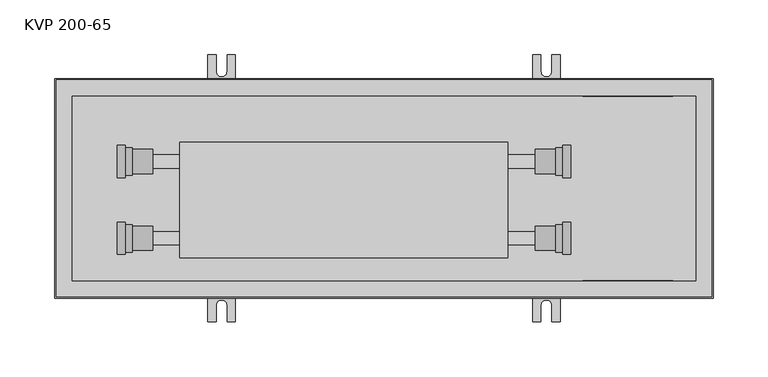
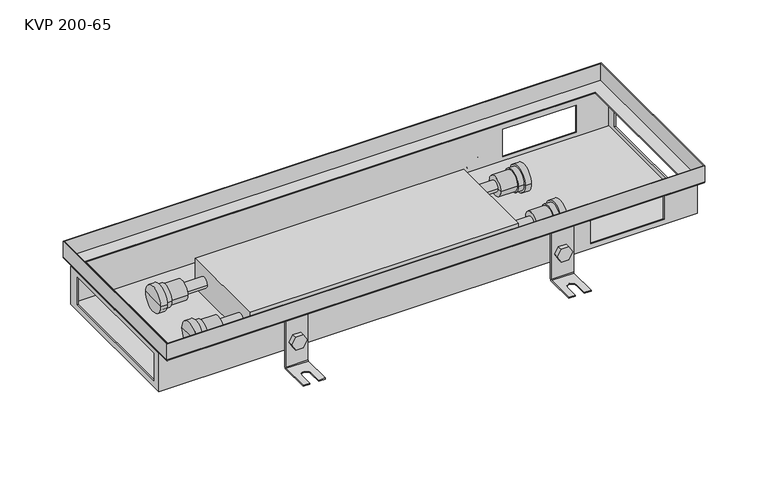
"""IFC4 building model written with IfcOpenShell, lengths in millimetres: proxy geometry, TECHNO_Конвектор встраиваемый_Usual_KVP-200_65 : KVP 200-65."""

from ifc_helpers import new_model, si_unit, point, frame, frame_2d, origin, place, context, project, spatial, polyline, circle_curve, ellipse_curve, trimmed, segment, composite_curve, outline, extrude, faceted_brep, source, transform, mapped, element, save
from ifc_brep_helpers import plane_surface, cylinder_surface, revolved_surface, advanced_brep


def kvp_200_65_299f4ea4(model_context):
    return source(origin(), model_context, "Body", "SolidModel", [
        extrude(outline(composite_curve([segment(trimmed(circle_curve(frame_2d((-55.5, 448.0)), 7.5), [point((-55.5, 440.5))], [point((-55.5, 455.5))], False, "CARTESIAN"), True, "CONTINUOUS"), segment(trimmed(circle_curve(frame_2d((-55.5, 448.0)), 7.5), [point((-55.5, 455.5))], [point((-55.5, 440.5))], False, "CARTESIAN"), True, "CONTINUOUS")], self_intersect=False)), frame((0.0, 85.2, 0.0), z_axis=(0.0, 1.0, 0.0), x_axis=(0.0, 0.0, 1.0)), (0.0, 0.0, 1.0), 1.5),
        extrude(outline(polyline([(-55.5, 439.339746), (-63.0, 443.669873), (-63.0, 452.330127), (-55.5, 456.660254), (-48.0, 452.330127), (-48.0, 443.669873), (-55.5, 439.339746)])), frame((0.0, 87.9, 0.0), z_axis=(0.0, 1.0, 0.0), x_axis=(0.0, 0.0, 1.0)), (0.0, 0.0, 1.0), 5.1),
        advanced_brep(
        [(460.5, 87.9, -20.5), (460.5, 86.7, -20.5), (460.5, 86.7, -83.5), (460.5, 88.7, -85.5), (460.5, 121.7, -85.5), (460.5, 121.7, -84.3), (460.5, 88.7, -84.3), (460.5, 87.9, -83.5), (435.5, 87.9, -20.5), (435.5, 87.9, -83.5), (435.5, 88.7, -84.3), (435.5, 121.7, -84.3), (435.5, 121.7, -85.5), (435.5, 88.7, -85.5), (435.5, 86.7, -83.5), (435.5, 86.7, -20.5), (453.0, 121.7, -84.3), (453.0, 106.7, -84.3), (443.0, 106.7, -84.3), (443.0, 121.7, -84.3), (443.0, 121.7, -85.5), (453.0, 121.7, -85.5), (443.0, 106.7, -85.5), (453.0, 106.7, -85.5)],
        [
            (0, 1),
            (1, 2),
            (2, 3, circle_curve(frame((460.5, 88.7, -83.5), z_axis=(1.0, 0.0, 0.0), x_axis=(0.0, 1.0, 0.0)), 2.0)),
            (3, 4),
            (4, 5),
            (5, 6),
            (6, 7, circle_curve(frame((460.5, 88.7, -83.5), z_axis=(-1.0, 0.0, 0.0), x_axis=(0.0, 1.0, 0.0)), 0.8)),
            (7, 0),
            (8, 9),
            (9, 10, circle_curve(frame((435.5, 88.7, -83.5), z_axis=(1.0, 0.0, 0.0), x_axis=(0.0, 1.0, 0.0)), 0.8)),
            (10, 11),
            (11, 12),
            (12, 13),
            (13, 14, circle_curve(frame((435.5, 88.7, -83.5), z_axis=(-1.0, 0.0, 0.0), x_axis=(0.0, 1.0, 0.0)), 2.0)),
            (14, 15),
            (15, 8),
            (7, 9),
            (8, 0),
            (6, 10),
            (5, 16),
            (16, 17),
            (17, 18, circle_curve(frame((448.0, 106.7, -84.3), z_axis=(0.0, 0.0, -1.0), x_axis=(1.0, 0.0, 0.0)), 5.0)),
            (18, 19),
            (19, 11),
            (19, 20),
            (20, 12),
            (4, 21),
            (21, 16),
            (3, 13),
            (20, 22),
            (22, 23, circle_curve(frame((448.0, 106.7, -85.5), z_axis=(0.0, 0.0, 1.0), x_axis=(1.0, 0.0, 0.0)), 5.0)),
            (23, 21),
            (2, 14),
            (1, 15),
            (18, 22),
            (23, 17),
        ],
        [
            plane_surface(frame((460.5, 87.9, -20.5), z_axis=(1.0, 0.0, 0.0), x_axis=(0.0, 0.0, -1.0))),
            plane_surface(frame((435.5, 87.9, -20.5), z_axis=(-1.0, 0.0, 0.0), x_axis=(0.0, 0.0, 1.0))),
            plane_surface(frame((460.5, 87.9, -20.5), z_axis=(0.0, 1.0, 0.0), x_axis=(-1.0, 0.0, 0.0))),
            revolved_surface(polyline([(435.5, 89.5, -83.5), (460.5, 89.5, -83.5)]), (435.5, 88.7, -83.5), (-1.0, 0.0, 0.0)),
            plane_surface(frame((460.5, 88.7, -84.3), z_axis=(0.0, 0.0, 1.0), x_axis=(-1.0, 0.0, 0.0))),
            plane_surface(frame((460.5, 121.7, -84.3), z_axis=(0.0, 1.0, 0.0), x_axis=(-1.0, 0.0, 0.0))),
            plane_surface(frame((460.5, 121.7, -85.5), z_axis=(0.0, 0.0, -1.0), x_axis=(-1.0, 0.0, 0.0))),
            cylinder_surface(frame((435.5, 88.7, -83.5), z_axis=(1.0, 0.0, 0.0), x_axis=(0.0, 1.0, 0.0)), 2.0),
            plane_surface(frame((460.5, 86.7, -83.5), z_axis=(0.0, -1.0, 0.0), x_axis=(-1.0, 0.0, 0.0))),
            plane_surface(frame((460.5, 86.7, -20.5), z_axis=(0.0, 0.0, 1.0), x_axis=(-1.0, 0.0, 0.0))),
            plane_surface(frame((443.0, 106.7, -84.3), z_axis=(1.0, 0.0, 0.0), x_axis=(0.0, 0.0, -1.0))),
            plane_surface(frame((453.0, 121.7, -84.3), z_axis=(-1.0, 0.0, 0.0), x_axis=(0.0, 0.0, -1.0))),
            revolved_surface(polyline([(453.0, 106.7, -84.3), (453.0, 106.7, -85.5)]), (448.0, 106.7, -85.5), (0.0, 0.0, 1.0)),
        ],
        [
            (0, [[1, 2, 3, 4, 5, 6, 7, 8]]),
            (1, [[9, 10, 11, 12, 13, 14, 15, 16]]),
            (2, [[17, -9, 18, -8]]),
            (3, [[19, -10, -17, -7]]),
            (4, [[20, 21, 22, 23, 24, -11, -19, -6]]),
            (5, [[-24, 25, 26, -12]]),
            (5, [[27, 28, -20, -5]]),
            (6, [[29, -13, -26, 30, 31, 32, -27, -4]]),
            (7, [[33, -14, -29, -3]]),
            (8, [[34, -15, -33, -2]]),
            (9, [[-18, -16, -34, -1]]),
            (10, [[-30, -25, -23, 35]]),
            (11, [[-21, -28, -32, 36]]),
            (12, [[-22, -36, -31, -35]]),
        ],
    ),
        extrude(outline(composite_curve([segment(trimmed(circle_curve(frame_2d((-55.5, 448.0)), 7.5), [point((-55.5, 440.5))], [point((-55.5, 455.5))], False, "CARTESIAN"), True, "CONTINUOUS"), segment(trimmed(circle_curve(frame_2d((-55.5, 448.0)), 7.5), [point((-55.5, 455.5))], [point((-55.5, 440.5))], False, "CARTESIAN"), True, "CONTINUOUS")], self_intersect=False)), frame((0.0, -86.7, 0.0), z_axis=(0.0, 1.0, 0.0), x_axis=(0.0, 0.0, 1.0)), (0.0, 0.0, 1.0), 1.5),
        extrude(outline(polyline([(-55.5, 439.339746), (-63.0, 443.669873), (-63.0, 452.330127), (-55.5, 456.660254), (-48.0, 452.330127), (-48.0, 443.669873), (-55.5, 439.339746)])), frame((0.0, -93.0, 0.0), z_axis=(0.0, 1.0, 0.0), x_axis=(0.0, 0.0, 1.0)), (0.0, 0.0, 1.0), 5.1),
        advanced_brep(
        [(460.5, -87.9, -20.5), (460.5, -87.9, -83.5), (460.5, -88.7, -84.3), (460.5, -121.7, -84.3), (460.5, -121.7, -85.5), (460.5, -88.7, -85.5), (460.5, -86.7, -83.5), (460.5, -86.7, -20.5), (435.5, -87.9, -20.5), (435.5, -86.7, -20.5), (435.5, -86.7, -83.5), (435.5, -88.7, -85.5), (435.5, -121.7, -85.5), (435.5, -121.7, -84.3), (435.5, -88.7, -84.3), (435.5, -87.9, -83.5), (443.0, -121.7, -84.3), (443.0, -106.7, -84.3), (453.0, -106.7, -84.3), (453.0, -121.7, -84.3), (453.0, -121.7, -85.5), (443.0, -121.7, -85.5), (453.0, -106.7, -85.5), (443.0, -106.7, -85.5)],
        [
            (0, 1),
            (1, 2, circle_curve(frame((460.5, -88.7, -83.5), z_axis=(-1.0, 0.0, 0.0), x_axis=(0.0, -1.0, 0.0)), 0.8)),
            (2, 3),
            (3, 4),
            (4, 5),
            (5, 6, circle_curve(frame((460.5, -88.7, -83.5), z_axis=(1.0, 0.0, 0.0), x_axis=(0.0, -1.0, 0.0)), 2.0)),
            (6, 7),
            (7, 0),
            (8, 9),
            (9, 10),
            (10, 11, circle_curve(frame((435.5, -88.7, -83.5), z_axis=(-1.0, 0.0, 0.0), x_axis=(0.0, -1.0, 0.0)), 2.0)),
            (11, 12),
            (12, 13),
            (13, 14),
            (14, 15, circle_curve(frame((435.5, -88.7, -83.5), z_axis=(1.0, 0.0, 0.0), x_axis=(0.0, -1.0, 0.0)), 0.8)),
            (15, 8),
            (0, 8),
            (15, 1),
            (14, 2),
            (13, 16),
            (16, 17),
            (17, 18, circle_curve(frame((448.0, -106.7, -84.3), z_axis=(0.0, 0.0, -1.0), x_axis=(1.0, 0.0, 0.0)), 5.0)),
            (18, 19),
            (19, 3),
            (19, 20),
            (20, 4),
            (12, 21),
            (21, 16),
            (20, 22),
            (22, 23, circle_curve(frame((448.0, -106.7, -85.5), z_axis=(0.0, 0.0, 1.0), x_axis=(1.0, 0.0, 0.0)), 5.0)),
            (23, 21),
            (11, 5),
            (10, 6),
            (9, 7),
            (23, 17),
            (18, 22),
        ],
        [
            plane_surface(frame((460.5, -87.9, -20.5), z_axis=(1.0, 0.0, 0.0), x_axis=(0.0, 0.0, -1.0))),
            plane_surface(frame((435.5, -87.9, -20.5), z_axis=(-1.0, 0.0, 0.0), x_axis=(0.0, 0.0, 1.0))),
            plane_surface(frame((460.5, -87.9, -20.5), z_axis=(0.0, -1.0, 0.0), x_axis=(-1.0, 0.0, 0.0))),
            revolved_surface(polyline([(435.5, -89.5, -83.5), (460.5, -89.5, -83.5)]), (435.5, -88.7, -83.5), (-1.0, 0.0, 0.0)),
            plane_surface(frame((460.5, -88.7, -84.3), z_axis=(0.0, 0.0, 1.0), x_axis=(-1.0, 0.0, 0.0))),
            plane_surface(frame((460.5, -121.7, -84.3), z_axis=(0.0, -1.0, 0.0), x_axis=(-1.0, 0.0, 0.0))),
            plane_surface(frame((460.5, -121.7, -85.5), z_axis=(0.0, 0.0, -1.0), x_axis=(-1.0, 0.0, 0.0))),
            cylinder_surface(frame((435.5, -88.7, -83.5), z_axis=(1.0, 0.0, 0.0), x_axis=(0.0, -1.0, 0.0)), 2.0),
            plane_surface(frame((460.5, -86.7, -83.5), z_axis=(0.0, 1.0, 0.0), x_axis=(-1.0, 0.0, 0.0))),
            plane_surface(frame((460.5, -86.7, -20.5), z_axis=(0.0, 0.0, 1.0), x_axis=(-1.0, 0.0, 0.0))),
            plane_surface(frame((443.0, -106.7, -84.3), z_axis=(1.0, 0.0, 0.0), x_axis=(0.0, 0.0, -1.0))),
            plane_surface(frame((453.0, -121.7, -84.3), z_axis=(-1.0, 0.0, 0.0), x_axis=(0.0, 0.0, -1.0))),
            revolved_surface(polyline([(453.0, -106.7, -84.3), (453.0, -106.7, -85.5)]), (448.0, -106.7, -85.5), (0.0, 0.0, 1.0)),
        ],
        [
            (0, [[1, 2, 3, 4, 5, 6, 7, 8]]),
            (1, [[9, 10, 11, 12, 13, 14, 15, 16]]),
            (2, [[-1, 17, -16, 18]]),
            (3, [[-2, -18, -15, 19]]),
            (4, [[-3, -19, -14, 20, 21, 22, 23, 24]]),
            (5, [[-4, -24, 25, 26]]),
            (5, [[-13, 27, 28, -20]]),
            (6, [[-5, -26, 29, 30, 31, -27, -12, 32]]),
            (7, [[-6, -32, -11, 33]]),
            (8, [[-7, -33, -10, 34]]),
            (9, [[-8, -34, -9, -17]]),
            (10, [[35, -21, -28, -31]]),
            (11, [[36, -29, -25, -23]]),
            (12, [[-35, -30, -36, -22]]),
        ],
    ),
        extrude(outline(composite_curve([segment(trimmed(circle_curve(frame_2d((-55.5, 152.0)), 7.5), [point((-55.5, 144.5))], [point((-55.5, 159.5))], False, "CARTESIAN"), True, "CONTINUOUS"), segment(trimmed(circle_curve(frame_2d((-55.5, 152.0)), 7.5), [point((-55.5, 159.5))], [point((-55.5, 144.5))], False, "CARTESIAN"), True, "CONTINUOUS")], self_intersect=False)), frame((0.0, 85.2, 0.0), z_axis=(0.0, 1.0, 0.0), x_axis=(0.0, 0.0, 1.0)), (0.0, 0.0, 1.0), 1.5),
        extrude(outline(polyline([(-55.5, 143.339746), (-63.0, 147.669873), (-63.0, 156.330127), (-55.5, 160.660254), (-48.0, 156.330127), (-48.0, 147.669873), (-55.5, 143.339746)])), frame((0.0, 87.9, 0.0), z_axis=(0.0, 1.0, 0.0), x_axis=(0.0, 0.0, 1.0)), (0.0, 0.0, 1.0), 5.1),
        advanced_brep(
        [(164.5, 87.9, -20.5), (164.5, 86.7, -20.5), (164.5, 86.7, -83.5), (164.5, 88.7, -85.5), (164.5, 121.7, -85.5), (164.5, 121.7, -84.3), (164.5, 88.7, -84.3), (164.5, 87.9, -83.5), (139.5, 87.9, -20.5), (139.5, 87.9, -83.5), (139.5, 88.7, -84.3), (139.5, 121.7, -84.3), (139.5, 121.7, -85.5), (139.5, 88.7, -85.5), (139.5, 86.7, -83.5), (139.5, 86.7, -20.5), (157.0, 121.7, -84.3), (157.0, 106.7, -84.3), (147.0, 106.7, -84.3), (147.0, 121.7, -84.3), (147.0, 121.7, -85.5), (157.0, 121.7, -85.5), (147.0, 106.7, -85.5), (157.0, 106.7, -85.5)],
        [
            (0, 1),
            (1, 2),
            (2, 3, circle_curve(frame((164.5, 88.7, -83.5), z_axis=(1.0, 0.0, 0.0), x_axis=(0.0, 1.0, 0.0)), 2.0)),
            (3, 4),
            (4, 5),
            (5, 6),
            (6, 7, circle_curve(frame((164.5, 88.7, -83.5), z_axis=(-1.0, 0.0, 0.0), x_axis=(0.0, 1.0, 0.0)), 0.8)),
            (7, 0),
            (8, 9),
            (9, 10, circle_curve(frame((139.5, 88.7, -83.5), z_axis=(1.0, 0.0, 0.0), x_axis=(0.0, 1.0, 0.0)), 0.8)),
            (10, 11),
            (11, 12),
            (12, 13),
            (13, 14, circle_curve(frame((139.5, 88.7, -83.5), z_axis=(-1.0, 0.0, 0.0), x_axis=(0.0, 1.0, 0.0)), 2.0)),
            (14, 15),
            (15, 8),
            (7, 9),
            (8, 0),
            (6, 10),
            (5, 16),
            (16, 17),
            (17, 18, circle_curve(frame((152.0, 106.7, -84.3), z_axis=(0.0, 0.0, -1.0), x_axis=(1.0, 0.0, 0.0)), 5.0)),
            (18, 19),
            (19, 11),
            (19, 20),
            (20, 12),
            (4, 21),
            (21, 16),
            (3, 13),
            (20, 22),
            (22, 23, circle_curve(frame((152.0, 106.7, -85.5), z_axis=(0.0, 0.0, 1.0), x_axis=(1.0, 0.0, 0.0)), 5.0)),
            (23, 21),
            (2, 14),
            (1, 15),
            (18, 22),
            (23, 17),
        ],
        [
            plane_surface(frame((164.5, 87.9, -20.5), z_axis=(1.0, 0.0, 0.0), x_axis=(0.0, 0.0, -1.0))),
            plane_surface(frame((139.5, 87.9, -20.5), z_axis=(-1.0, 0.0, 0.0), x_axis=(0.0, 0.0, 1.0))),
            plane_surface(frame((164.5, 87.9, -20.5), z_axis=(0.0, 1.0, 0.0), x_axis=(-1.0, 0.0, 0.0))),
            revolved_surface(polyline([(139.5, 89.5, -83.5), (164.5, 89.5, -83.5)]), (139.5, 88.7, -83.5), (-1.0, 0.0, 0.0)),
            plane_surface(frame((164.5, 88.7, -84.3), z_axis=(0.0, 0.0, 1.0), x_axis=(-1.0, 0.0, 0.0))),
            plane_surface(frame((164.5, 121.7, -84.3), z_axis=(0.0, 1.0, 0.0), x_axis=(-1.0, 0.0, 0.0))),
            plane_surface(frame((164.5, 121.7, -85.5), z_axis=(0.0, 0.0, -1.0), x_axis=(-1.0, 0.0, 0.0))),
            cylinder_surface(frame((139.5, 88.7, -83.5), z_axis=(1.0, 0.0, 0.0), x_axis=(0.0, 1.0, 0.0)), 2.0),
            plane_surface(frame((164.5, 86.7, -83.5), z_axis=(0.0, -1.0, 0.0), x_axis=(-1.0, 0.0, 0.0))),
            plane_surface(frame((164.5, 86.7, -20.5), z_axis=(0.0, 0.0, 1.0), x_axis=(-1.0, 0.0, 0.0))),
            plane_surface(frame((147.0, 106.7, -84.3), z_axis=(1.0, 0.0, 0.0), x_axis=(0.0, 0.0, -1.0))),
            plane_surface(frame((157.0, 121.7, -84.3), z_axis=(-1.0, 0.0, 0.0), x_axis=(0.0, 0.0, -1.0))),
            revolved_surface(polyline([(157.0, 106.7, -84.3), (157.0, 106.7, -85.5)]), (152.0, 106.7, -85.5), (0.0, 0.0, 1.0)),
        ],
        [
            (0, [[1, 2, 3, 4, 5, 6, 7, 8]]),
            (1, [[9, 10, 11, 12, 13, 14, 15, 16]]),
            (2, [[17, -9, 18, -8]]),
            (3, [[19, -10, -17, -7]]),
            (4, [[20, 21, 22, 23, 24, -11, -19, -6]]),
            (5, [[-24, 25, 26, -12]]),
            (5, [[27, 28, -20, -5]]),
            (6, [[29, -13, -26, 30, 31, 32, -27, -4]]),
            (7, [[33, -14, -29, -3]]),
            (8, [[34, -15, -33, -2]]),
            (9, [[-18, -16, -34, -1]]),
            (10, [[-30, -25, -23, 35]]),
            (11, [[-21, -28, -32, 36]]),
            (12, [[-22, -36, -31, -35]]),
        ],
    ),
        extrude(outline(composite_curve([segment(trimmed(circle_curve(frame_2d((-55.5, 152.0)), 7.5), [point((-55.5, 144.5))], [point((-55.5, 159.5))], False, "CARTESIAN"), True, "CONTINUOUS"), segment(trimmed(circle_curve(frame_2d((-55.5, 152.0)), 7.5), [point((-55.5, 159.5))], [point((-55.5, 144.5))], False, "CARTESIAN"), True, "CONTINUOUS")], self_intersect=False)), frame((0.0, -86.7, 0.0), z_axis=(0.0, 1.0, 0.0), x_axis=(0.0, 0.0, 1.0)), (0.0, 0.0, 1.0), 1.5),
        extrude(outline(polyline([(-55.5, 143.339746), (-63.0, 147.669873), (-63.0, 156.330127), (-55.5, 160.660254), (-48.0, 156.330127), (-48.0, 147.669873), (-55.5, 143.339746)])), frame((0.0, -93.0, 0.0), z_axis=(0.0, 1.0, 0.0), x_axis=(0.0, 0.0, 1.0)), (0.0, 0.0, 1.0), 5.1),
        advanced_brep(
        [(164.5, -87.9, -20.5), (164.5, -87.9, -83.5), (164.5, -88.7, -84.3), (164.5, -121.7, -84.3), (164.5, -121.7, -85.5), (164.5, -88.7, -85.5), (164.5, -86.7, -83.5), (164.5, -86.7, -20.5), (139.5, -87.9, -20.5), (139.5, -86.7, -20.5), (139.5, -86.7, -83.5), (139.5, -88.7, -85.5), (139.5, -121.7, -85.5), (139.5, -121.7, -84.3), (139.5, -88.7, -84.3), (139.5, -87.9, -83.5), (147.0, -121.7, -84.3), (147.0, -106.7, -84.3), (157.0, -106.7, -84.3), (157.0, -121.7, -84.3), (157.0, -121.7, -85.5), (147.0, -121.7, -85.5), (157.0, -106.7, -85.5), (147.0, -106.7, -85.5)],
        [
            (0, 1),
            (1, 2, circle_curve(frame((164.5, -88.7, -83.5), z_axis=(-1.0, 0.0, 0.0), x_axis=(0.0, -1.0, 0.0)), 0.8)),
            (2, 3),
            (3, 4),
            (4, 5),
            (5, 6, circle_curve(frame((164.5, -88.7, -83.5), z_axis=(1.0, 0.0, 0.0), x_axis=(0.0, -1.0, 0.0)), 2.0)),
            (6, 7),
            (7, 0),
            (8, 9),
            (9, 10),
            (10, 11, circle_curve(frame((139.5, -88.7, -83.5), z_axis=(-1.0, 0.0, 0.0), x_axis=(0.0, -1.0, 0.0)), 2.0)),
            (11, 12),
            (12, 13),
            (13, 14),
            (14, 15, circle_curve(frame((139.5, -88.7, -83.5), z_axis=(1.0, 0.0, 0.0), x_axis=(0.0, -1.0, 0.0)), 0.8)),
            (15, 8),
            (0, 8),
            (15, 1),
            (14, 2),
            (13, 16),
            (16, 17),
            (17, 18, circle_curve(frame((152.0, -106.7, -84.3), z_axis=(0.0, 0.0, -1.0), x_axis=(1.0, 0.0, 0.0)), 5.0)),
            (18, 19),
            (19, 3),
            (19, 20),
            (20, 4),
            (12, 21),
            (21, 16),
            (20, 22),
            (22, 23, circle_curve(frame((152.0, -106.7, -85.5), z_axis=(0.0, 0.0, 1.0), x_axis=(1.0, 0.0, 0.0)), 5.0)),
            (23, 21),
            (11, 5),
            (10, 6),
            (9, 7),
            (23, 17),
            (18, 22),
        ],
        [
            plane_surface(frame((164.5, -87.9, -20.5), z_axis=(1.0, 0.0, 0.0), x_axis=(0.0, 0.0, -1.0))),
            plane_surface(frame((139.5, -87.9, -20.5), z_axis=(-1.0, 0.0, 0.0), x_axis=(0.0, 0.0, 1.0))),
            plane_surface(frame((164.5, -87.9, -20.5), z_axis=(0.0, -1.0, 0.0), x_axis=(-1.0, 0.0, 0.0))),
            revolved_surface(polyline([(139.5, -89.5, -83.5), (164.5, -89.5, -83.5)]), (139.5, -88.7, -83.5), (-1.0, 0.0, 0.0)),
            plane_surface(frame((164.5, -88.7, -84.3), z_axis=(0.0, 0.0, 1.0), x_axis=(-1.0, 0.0, 0.0))),
            plane_surface(frame((164.5, -121.7, -84.3), z_axis=(0.0, -1.0, 0.0), x_axis=(-1.0, 0.0, 0.0))),
            plane_surface(frame((164.5, -121.7, -85.5), z_axis=(0.0, 0.0, -1.0), x_axis=(-1.0, 0.0, 0.0))),
            cylinder_surface(frame((139.5, -88.7, -83.5), z_axis=(1.0, 0.0, 0.0), x_axis=(0.0, -1.0, 0.0)), 2.0),
            plane_surface(frame((164.5, -86.7, -83.5), z_axis=(0.0, 1.0, 0.0), x_axis=(-1.0, 0.0, 0.0))),
            plane_surface(frame((164.5, -86.7, -20.5), z_axis=(0.0, 0.0, 1.0), x_axis=(-1.0, 0.0, 0.0))),
            plane_surface(frame((147.0, -106.7, -84.3), z_axis=(1.0, 0.0, 0.0), x_axis=(0.0, 0.0, -1.0))),
            plane_surface(frame((157.0, -121.7, -84.3), z_axis=(-1.0, 0.0, 0.0), x_axis=(0.0, 0.0, -1.0))),
            revolved_surface(polyline([(157.0, -106.7, -84.3), (157.0, -106.7, -85.5)]), (152.0, -106.7, -85.5), (0.0, 0.0, 1.0)),
        ],
        [
            (0, [[1, 2, 3, 4, 5, 6, 7, 8]]),
            (1, [[9, 10, 11, 12, 13, 14, 15, 16]]),
            (2, [[-1, 17, -16, 18]]),
            (3, [[-2, -18, -15, 19]]),
            (4, [[-3, -19, -14, 20, 21, 22, 23, 24]]),
            (5, [[-4, -24, 25, 26]]),
            (5, [[-13, 27, 28, -20]]),
            (6, [[-5, -26, 29, 30, 31, -27, -12, 32]]),
            (7, [[-6, -32, -11, 33]]),
            (8, [[-7, -33, -10, 34]]),
            (9, [[-8, -34, -9, -17]]),
            (10, [[35, -21, -28, -31]]),
            (11, [[36, -29, -25, -23]]),
            (12, [[-35, -30, -36, -22]]),
        ],
    ),
        advanced_brep(
        [(89.0, 13.5, -42.3), (89.0, 35.5, -42.3), (89.0, 24.5, -42.3), (70.5, 13.5, -42.3), (70.5, 35.5, -42.3), (70.5, 12.0, -42.3), (70.5, 37.0, -42.3), (64.0, 12.0, -42.3), (64.0, 37.0, -42.3), (64.0, 9.8, -42.3), (64.0, 39.2, -42.3), (57.0, 9.8, -42.3), (57.0, 39.2, -42.3), (57.0, 24.5, -42.3)],
        [
            (0, 1, circle_curve(frame((89.0, 24.5, -42.3), z_axis=(1.0, 0.0, 0.0), x_axis=(0.0, 1.0, 0.0)), 11.0)),
            (1, 2),
            (2, 0),
            (1, 0, circle_curve(frame((89.0, 24.5, -42.3), z_axis=(1.0, 0.0, 0.0), x_axis=(0.0, 1.0, 0.0)), 11.0)),
            (3, 4, circle_curve(frame((70.5, 24.5, -42.3), z_axis=(1.0, 0.0, 0.0), x_axis=(0.0, 1.0, 0.0)), 11.0)),
            (4, 1),
            (0, 3),
            (4, 3, circle_curve(frame((70.5, 24.5, -42.3), z_axis=(1.0, 0.0, 0.0), x_axis=(0.0, 1.0, 0.0)), 11.0)),
            (5, 6, circle_curve(frame((70.5, 24.5, -42.3), z_axis=(1.0, 0.0, 0.0), x_axis=(0.0, 1.0, 0.0)), 12.5)),
            (6, 4),
            (3, 5),
            (6, 5, circle_curve(frame((70.5, 24.5, -42.3), z_axis=(1.0, 0.0, 0.0), x_axis=(0.0, 1.0, 0.0)), 12.5)),
            (7, 8, circle_curve(frame((64.0, 24.5, -42.3), z_axis=(1.0, 0.0, 0.0), x_axis=(0.0, 1.0, 0.0)), 12.5)),
            (8, 6),
            (5, 7),
            (8, 7, circle_curve(frame((64.0, 24.5, -42.3), z_axis=(1.0, 0.0, 0.0), x_axis=(0.0, 1.0, 0.0)), 12.5)),
            (9, 10, circle_curve(frame((64.0, 24.5, -42.3), z_axis=(1.0, 0.0, 0.0), x_axis=(0.0, 1.0, 0.0)), 14.7)),
            (10, 8),
            (7, 9),
            (10, 9, circle_curve(frame((64.0, 24.5, -42.3), z_axis=(1.0, 0.0, 0.0), x_axis=(0.0, 1.0, 0.0)), 14.7)),
            (11, 12, circle_curve(frame((57.0, 24.5, -42.3), z_axis=(1.0, 0.0, 0.0), x_axis=(0.0, 1.0, 0.0)), 14.7)),
            (12, 10),
            (9, 11),
            (12, 11, circle_curve(frame((57.0, 24.5, -42.3), z_axis=(1.0, 0.0, 0.0), x_axis=(0.0, 1.0, 0.0)), 14.7)),
            (13, 12),
            (11, 13),
        ],
        [
            plane_surface(frame((89.0, 24.5, -42.3), z_axis=(1.0, 0.0, 0.0), x_axis=(0.0, 1.0, 0.0))),
            cylinder_surface(frame((47.0, 24.5, -42.3), z_axis=(-1.0, 0.0, 0.0), x_axis=(0.0, 1.0, 0.0)), 11.0),
            plane_surface(frame((70.5, 24.5, -42.3), z_axis=(1.0, 0.0, 0.0), x_axis=(0.0, 1.0, 0.0))),
            cylinder_surface(frame((47.0, 24.5, -42.3), z_axis=(-1.0, 0.0, 0.0), x_axis=(0.0, 1.0, 0.0)), 12.5),
            plane_surface(frame((64.0, 24.5, -42.3), z_axis=(1.0, 0.0, 0.0), x_axis=(0.0, 1.0, 0.0))),
            cylinder_surface(frame((47.0, 24.5, -42.3), z_axis=(-1.0, 0.0, 0.0), x_axis=(0.0, 1.0, 0.0)), 14.7),
            plane_surface(frame((57.0, 24.5, -42.3), z_axis=(-1.0, 0.0, 0.0), x_axis=(0.0, 1.0, 0.0))),
        ],
        [
            (0, [[1, 2, 3]]),
            (0, [[4, -3, -2]]),
            (1, [[5, 6, -1, 7]]),
            (1, [[8, -7, -4, -6]]),
            (2, [[9, 10, -5, 11]]),
            (2, [[12, -11, -8, -10]]),
            (3, [[13, 14, -9, 15]]),
            (3, [[16, -15, -12, -14]]),
            (4, [[17, 18, -13, 19]]),
            (4, [[20, -19, -16, -18]]),
            (5, [[21, 22, -17, 23]]),
            (5, [[24, -23, -20, -22]]),
            (6, [[25, -21, 26]]),
            (6, [[-26, -24, -25]]),
        ],
    ),
        advanced_brep(
        [(89.0, -56.5, -42.3), (89.0, -34.5, -42.3), (89.0, -45.5, -42.3), (70.5, -56.5, -42.3), (70.5, -34.5, -42.3), (70.5, -58.0, -42.3), (70.5, -33.0, -42.3), (64.0, -58.0, -42.3), (64.0, -33.0, -42.3), (64.0, -60.2, -42.3), (64.0, -30.8, -42.3), (57.0, -60.2, -42.3), (57.0, -30.8, -42.3), (57.0, -45.5, -42.3)],
        [
            (0, 1, circle_curve(frame((89.0, -45.5, -42.3), z_axis=(1.0, 0.0, 0.0), x_axis=(0.0, 1.0, 0.0)), 11.0)),
            (1, 2),
            (2, 0),
            (1, 0, circle_curve(frame((89.0, -45.5, -42.3), z_axis=(1.0, 0.0, 0.0), x_axis=(0.0, 1.0, 0.0)), 11.0)),
            (3, 4, circle_curve(frame((70.5, -45.5, -42.3), z_axis=(1.0, 0.0, 0.0), x_axis=(0.0, 1.0, 0.0)), 11.0)),
            (4, 1),
            (0, 3),
            (4, 3, circle_curve(frame((70.5, -45.5, -42.3), z_axis=(1.0, 0.0, 0.0), x_axis=(0.0, 1.0, 0.0)), 11.0)),
            (5, 6, circle_curve(frame((70.5, -45.5, -42.3), z_axis=(1.0, 0.0, 0.0), x_axis=(0.0, 1.0, 0.0)), 12.5)),
            (6, 4),
            (3, 5),
            (6, 5, circle_curve(frame((70.5, -45.5, -42.3), z_axis=(1.0, 0.0, 0.0), x_axis=(0.0, 1.0, 0.0)), 12.5)),
            (7, 8, circle_curve(frame((64.0, -45.5, -42.3), z_axis=(1.0, 0.0, 0.0), x_axis=(0.0, 1.0, 0.0)), 12.5)),
            (8, 6),
            (5, 7),
            (8, 7, circle_curve(frame((64.0, -45.5, -42.3), z_axis=(1.0, 0.0, 0.0), x_axis=(0.0, 1.0, 0.0)), 12.5)),
            (9, 10, circle_curve(frame((64.0, -45.5, -42.3), z_axis=(1.0, 0.0, 0.0), x_axis=(0.0, 1.0, 0.0)), 14.7)),
            (10, 8),
            (7, 9),
            (10, 9, circle_curve(frame((64.0, -45.5, -42.3), z_axis=(1.0, 0.0, 0.0), x_axis=(0.0, 1.0, 0.0)), 14.7)),
            (11, 12, circle_curve(frame((57.0, -45.5, -42.3), z_axis=(1.0, 0.0, 0.0), x_axis=(0.0, 1.0, 0.0)), 14.7)),
            (12, 10),
            (9, 11),
            (12, 11, circle_curve(frame((57.0, -45.5, -42.3), z_axis=(1.0, 0.0, 0.0), x_axis=(0.0, 1.0, 0.0)), 14.7)),
            (13, 12),
            (11, 13),
        ],
        [
            plane_surface(frame((89.0, -45.5, -42.3), z_axis=(1.0, 0.0, 0.0), x_axis=(0.0, 1.0, 0.0))),
            cylinder_surface(frame((47.0, -45.5, -42.3), z_axis=(-1.0, 0.0, 0.0), x_axis=(0.0, 1.0, 0.0)), 11.0),
            plane_surface(frame((70.5, -45.5, -42.3), z_axis=(1.0, 0.0, 0.0), x_axis=(0.0, 1.0, 0.0))),
            cylinder_surface(frame((47.0, -45.5, -42.3), z_axis=(-1.0, 0.0, 0.0), x_axis=(0.0, 1.0, 0.0)), 12.5),
            plane_surface(frame((64.0, -45.5, -42.3), z_axis=(1.0, 0.0, 0.0), x_axis=(0.0, 1.0, 0.0))),
            cylinder_surface(frame((47.0, -45.5, -42.3), z_axis=(-1.0, 0.0, 0.0), x_axis=(0.0, 1.0, 0.0)), 14.7),
            plane_surface(frame((57.0, -45.5, -42.3), z_axis=(-1.0, 0.0, 0.0), x_axis=(0.0, 1.0, 0.0))),
        ],
        [
            (0, [[1, 2, 3]]),
            (0, [[4, -3, -2]]),
            (1, [[5, 6, -1, 7]]),
            (1, [[8, -7, -4, -6]]),
            (2, [[9, 10, -5, 11]]),
            (2, [[12, -11, -8, -10]]),
            (3, [[13, 14, -9, 15]]),
            (3, [[16, -15, -12, -14]]),
            (4, [[17, 18, -13, 19]]),
            (4, [[20, -19, -16, -18]]),
            (5, [[21, 22, -17, 23]]),
            (5, [[24, -23, -20, -22]]),
            (6, [[25, -21, 26]]),
            (6, [[-26, -24, -25]]),
        ],
    ),
        extrude(outline(polyline([(413.0, 42.0), (413.0, -63.0), (114.0, -63.0), (114.0, 42.0), (413.0, 42.0)])), frame((0.0, 0.0, -59.8), z_axis=(0.0, 0.0, 1.0), x_axis=(1.0, 0.0, 0.0)), (0.0, 0.0, 1.0), 35.0),
        advanced_brep(
        [(438.0, 24.5, -42.3), (438.0, 35.5, -42.3), (438.0, 13.5, -42.3), (456.5, 35.5, -42.3), (456.5, 13.5, -42.3), (456.5, 37.0, -42.3), (456.5, 12.0, -42.3), (463.0, 37.0, -42.3), (463.0, 12.0, -42.3), (463.0, 39.2, -42.3), (463.0, 9.8, -42.3), (470.0, 39.2, -42.3), (470.0, 9.8, -42.3), (470.0, 24.5, -42.3)],
        [
            (0, 1),
            (1, 2, circle_curve(frame((438.0, 24.5, -42.3), z_axis=(-1.0, 0.0, 0.0), x_axis=(0.0, 1.0, 0.0)), 11.0)),
            (2, 0),
            (2, 1, circle_curve(frame((438.0, 24.5, -42.3), z_axis=(-1.0, 0.0, 0.0), x_axis=(0.0, 1.0, 0.0)), 11.0)),
            (1, 3),
            (3, 4, circle_curve(frame((456.5, 24.5, -42.3), z_axis=(-1.0, 0.0, 0.0), x_axis=(0.0, 1.0, 0.0)), 11.0)),
            (4, 2),
            (4, 3, circle_curve(frame((456.5, 24.5, -42.3), z_axis=(-1.0, 0.0, 0.0), x_axis=(0.0, 1.0, 0.0)), 11.0)),
            (3, 5),
            (5, 6, circle_curve(frame((456.5, 24.5, -42.3), z_axis=(-1.0, 0.0, 0.0), x_axis=(0.0, 1.0, 0.0)), 12.5)),
            (6, 4),
            (6, 5, circle_curve(frame((456.5, 24.5, -42.3), z_axis=(-1.0, 0.0, 0.0), x_axis=(0.0, 1.0, 0.0)), 12.5)),
            (5, 7),
            (7, 8, circle_curve(frame((463.0, 24.5, -42.3), z_axis=(-1.0, 0.0, 0.0), x_axis=(0.0, 1.0, 0.0)), 12.5)),
            (8, 6),
            (8, 7, circle_curve(frame((463.0, 24.5, -42.3), z_axis=(-1.0, 0.0, 0.0), x_axis=(0.0, 1.0, 0.0)), 12.5)),
            (7, 9),
            (9, 10, circle_curve(frame((463.0, 24.5, -42.3), z_axis=(-1.0, 0.0, 0.0), x_axis=(0.0, 1.0, 0.0)), 14.7)),
            (10, 8),
            (10, 9, circle_curve(frame((463.0, 24.5, -42.3), z_axis=(-1.0, 0.0, 0.0), x_axis=(0.0, 1.0, 0.0)), 14.7)),
            (9, 11),
            (11, 12, circle_curve(frame((470.0, 24.5, -42.3), z_axis=(-1.0, 0.0, 0.0), x_axis=(0.0, 1.0, 0.0)), 14.7)),
            (12, 10),
            (12, 11, circle_curve(frame((470.0, 24.5, -42.3), z_axis=(-1.0, 0.0, 0.0), x_axis=(0.0, 1.0, 0.0)), 14.7)),
            (11, 13),
            (13, 12),
        ],
        [
            plane_surface(frame((438.0, 24.5, -42.3), z_axis=(-1.0, 0.0, 0.0), x_axis=(0.0, 1.0, 0.0))),
            cylinder_surface(frame((480.0, 24.5, -42.3), z_axis=(-1.0, 0.0, 0.0), x_axis=(0.0, 1.0, 0.0)), 11.0),
            plane_surface(frame((456.5, 24.5, -42.3), z_axis=(-1.0, 0.0, 0.0), x_axis=(0.0, 1.0, 0.0))),
            cylinder_surface(frame((480.0, 24.5, -42.3), z_axis=(-1.0, 0.0, 0.0), x_axis=(0.0, 1.0, 0.0)), 12.5),
            plane_surface(frame((463.0, 24.5, -42.3), z_axis=(-1.0, 0.0, 0.0), x_axis=(0.0, 1.0, 0.0))),
            cylinder_surface(frame((480.0, 24.5, -42.3), z_axis=(-1.0, 0.0, 0.0), x_axis=(0.0, 1.0, 0.0)), 14.7),
            plane_surface(frame((470.0, 24.5, -42.3), z_axis=(1.0, 0.0, 0.0), x_axis=(0.0, 1.0, 0.0))),
        ],
        [
            (0, [[1, 2, 3]]),
            (0, [[-3, 4, -1]]),
            (1, [[-2, 5, 6, 7]]),
            (1, [[-4, -7, 8, -5]]),
            (2, [[-6, 9, 10, 11]]),
            (2, [[-8, -11, 12, -9]]),
            (3, [[-10, 13, 14, 15]]),
            (3, [[-12, -15, 16, -13]]),
            (4, [[-14, 17, 18, 19]]),
            (4, [[-16, -19, 20, -17]]),
            (5, [[-18, 21, 22, 23]]),
            (5, [[-20, -23, 24, -21]]),
            (6, [[-22, 25, 26]]),
            (6, [[-24, -26, -25]]),
        ],
    ),
        advanced_brep(
        [(438.0, -45.5, -42.3), (438.0, -34.5, -42.3), (438.0, -56.5, -42.3), (456.5, -34.5, -42.3), (456.5, -56.5, -42.3), (456.5, -33.0, -42.3), (456.5, -58.0, -42.3), (463.0, -33.0, -42.3), (463.0, -58.0, -42.3), (463.0, -30.8, -42.3), (463.0, -60.2, -42.3), (470.0, -30.8, -42.3), (470.0, -60.2, -42.3), (470.0, -45.5, -42.3)],
        [
            (0, 1),
            (1, 2, circle_curve(frame((438.0, -45.5, -42.3), z_axis=(-1.0, 0.0, 0.0), x_axis=(0.0, 1.0, 0.0)), 11.0)),
            (2, 0),
            (2, 1, circle_curve(frame((438.0, -45.5, -42.3), z_axis=(-1.0, 0.0, 0.0), x_axis=(0.0, 1.0, 0.0)), 11.0)),
            (1, 3),
            (3, 4, circle_curve(frame((456.5, -45.5, -42.3), z_axis=(-1.0, 0.0, 0.0), x_axis=(0.0, 1.0, 0.0)), 11.0)),
            (4, 2),
            (4, 3, circle_curve(frame((456.5, -45.5, -42.3), z_axis=(-1.0, 0.0, 0.0), x_axis=(0.0, 1.0, 0.0)), 11.0)),
            (3, 5),
            (5, 6, circle_curve(frame((456.5, -45.5, -42.3), z_axis=(-1.0, 0.0, 0.0), x_axis=(0.0, 1.0, 0.0)), 12.5)),
            (6, 4),
            (6, 5, circle_curve(frame((456.5, -45.5, -42.3), z_axis=(-1.0, 0.0, 0.0), x_axis=(0.0, 1.0, 0.0)), 12.5)),
            (5, 7),
            (7, 8, circle_curve(frame((463.0, -45.5, -42.3), z_axis=(-1.0, 0.0, 0.0), x_axis=(0.0, 1.0, 0.0)), 12.5)),
            (8, 6),
            (8, 7, circle_curve(frame((463.0, -45.5, -42.3), z_axis=(-1.0, 0.0, 0.0), x_axis=(0.0, 1.0, 0.0)), 12.5)),
            (7, 9),
            (9, 10, circle_curve(frame((463.0, -45.5, -42.3), z_axis=(-1.0, 0.0, 0.0), x_axis=(0.0, 1.0, 0.0)), 14.7)),
            (10, 8),
            (10, 9, circle_curve(frame((463.0, -45.5, -42.3), z_axis=(-1.0, 0.0, 0.0), x_axis=(0.0, 1.0, 0.0)), 14.7)),
            (9, 11),
            (11, 12, circle_curve(frame((470.0, -45.5, -42.3), z_axis=(-1.0, 0.0, 0.0), x_axis=(0.0, 1.0, 0.0)), 14.7)),
            (12, 10),
            (12, 11, circle_curve(frame((470.0, -45.5, -42.3), z_axis=(-1.0, 0.0, 0.0), x_axis=(0.0, 1.0, 0.0)), 14.7)),
            (11, 13),
            (13, 12),
        ],
        [
            plane_surface(frame((438.0, -45.5, -42.3), z_axis=(-1.0, 0.0, 0.0), x_axis=(0.0, 1.0, 0.0))),
            cylinder_surface(frame((480.0, -45.5, -42.3), z_axis=(-1.0, 0.0, 0.0), x_axis=(0.0, 1.0, 0.0)), 11.0),
            plane_surface(frame((456.5, -45.5, -42.3), z_axis=(-1.0, 0.0, 0.0), x_axis=(0.0, 1.0, 0.0))),
            cylinder_surface(frame((480.0, -45.5, -42.3), z_axis=(-1.0, 0.0, 0.0), x_axis=(0.0, 1.0, 0.0)), 12.5),
            plane_surface(frame((463.0, -45.5, -42.3), z_axis=(-1.0, 0.0, 0.0), x_axis=(0.0, 1.0, 0.0))),
            cylinder_surface(frame((480.0, -45.5, -42.3), z_axis=(-1.0, 0.0, 0.0), x_axis=(0.0, 1.0, 0.0)), 14.7),
            plane_surface(frame((470.0, -45.5, -42.3), z_axis=(1.0, 0.0, 0.0), x_axis=(0.0, 1.0, 0.0))),
        ],
        [
            (0, [[1, 2, 3]]),
            (0, [[-3, 4, -1]]),
            (1, [[-2, 5, 6, 7]]),
            (1, [[-4, -7, 8, -5]]),
            (2, [[-6, 9, 10, 11]]),
            (2, [[-8, -11, 12, -9]]),
            (3, [[-10, 13, 14, 15]]),
            (3, [[-12, -15, 16, -13]]),
            (4, [[-14, 17, 18, 19]]),
            (4, [[-16, -19, 20, -17]]),
            (5, [[-18, 21, 22, 23]]),
            (5, [[-20, -23, 24, -21]]),
            (6, [[-22, 25, 26]]),
            (6, [[-24, -26, -25]]),
        ],
    ),
        extrude(outline(composite_curve([segment(trimmed(circle_curve(frame_2d((24.5, -42.3)), 6.0), [point((18.5, -42.3))], [point((30.5, -42.3))], False, "CARTESIAN"), True, "CONTINUOUS"), segment(trimmed(circle_curve(frame_2d((24.5, -42.3)), 6.0), [point((30.5, -42.3))], [point((18.5, -42.3))], False, "CARTESIAN"), True, "CONTINUOUS")], self_intersect=False)), frame((89.0, 0.0, 0.0), z_axis=(1.0, 0.0, 0.0), x_axis=(0.0, 1.0, 0.0)), (0.0, 0.0, 1.0), 349.0),
        extrude(outline(composite_curve([segment(trimmed(circle_curve(frame_2d((-45.5, -42.3)), 6.0), [point((-51.5, -42.3))], [point((-39.5, -42.3))], False, "CARTESIAN"), True, "CONTINUOUS"), segment(trimmed(circle_curve(frame_2d((-45.5, -42.3)), 6.0), [point((-39.5, -42.3))], [point((-51.5, -42.3))], False, "CARTESIAN"), True, "CONTINUOUS")], self_intersect=False)), frame((89.0, 0.0, 0.0), z_axis=(1.0, 0.0, 0.0), x_axis=(0.0, 1.0, 0.0)), (0.0, 0.0, 1.0), 349.0),
        faceted_brep([(598.8, -84.0, -63.8), (598.8, 84.0, -63.8), (1.2, 84.0, -63.8), (1.2, -84.0, -63.8), (0.0, -85.2, -65.0), (0.0, 85.2, -65.0), (600.0, 85.2, -65.0), (600.0, -85.2, -65.0), (600.0, -85.2, -20.5), (0.0, -85.2, -20.5), (481.0, -85.2, -27.0), (563.0, -85.2, -27.0), (563.0, -85.2, -59.0), (481.0, -85.2, -59.0), (600.0, 85.2, -20.5), (600.0, 72.6, -26.0), (600.0, 72.6, -58.0), (600.0, -75.0, -58.0), (600.0, -75.0, -26.0), (0.0, 85.2, -20.5), (563.0, 85.2, -27.0), (481.0, 85.2, -27.0), (481.0, 85.2, -59.0), (563.0, 85.2, -59.0), (0.0, 72.6, -58.0), (0.0, 72.6, -26.0), (0.0, -75.0, -26.0), (0.0, -75.0, -58.0), (598.8, -84.0, -20.5), (598.8, 84.0, -20.5), (598.8, 72.6, -58.0), (598.8, 72.6, -26.0), (598.8, -75.0, -26.0), (598.8, -75.0, -58.0), (1.2, -84.0, -20.5), (563.0, -84.0, -27.0), (481.0, -84.0, -27.0), (481.0, -84.0, -59.0), (563.0, -84.0, -59.0), (1.2, 84.0, -20.5), (1.2, 72.6, -26.0), (1.2, 72.6, -58.0), (1.2, -75.0, -58.0), (1.2, -75.0, -26.0), (481.0, 84.0, -27.0), (563.0, 84.0, -27.0), (563.0, 84.0, -59.0), (481.0, 84.0, -59.0)], [[[0, 1, 2, 3]], [[4, 5, 6, 7]], [[4, 7, 8, 9], [10, 11, 12, 13]], [[7, 6, 14, 8], [15, 16, 17, 18]], [[6, 5, 19, 14], [20, 21, 22, 23]], [[5, 4, 9, 19], [24, 25, 26, 27]], [[28, 29, 1, 0], [30, 31, 32, 33]], [[34, 28, 0, 3], [35, 36, 37, 38]], [[39, 34, 3, 2], [40, 41, 42, 43]], [[29, 39, 2, 1], [44, 45, 46, 47]], [[8, 14, 19, 9], [29, 28, 34, 39]], [[35, 11, 10, 36]], [[20, 45, 44, 21]], [[36, 10, 13, 37]], [[21, 44, 47, 22]], [[37, 13, 12, 38]], [[22, 47, 46, 23]], [[11, 35, 38, 12]], [[45, 20, 23, 46]], [[15, 31, 30, 16]], [[31, 15, 18, 32]], [[32, 18, 17, 33]], [[16, 30, 33, 17]], [[24, 41, 40, 25]], [[25, 40, 43, 26]], [[26, 43, 42, 27]], [[41, 24, 27, 42]]]),
        advanced_brep(
        [(584.0, 84.0, -19.3), (584.0, 84.0, -20.5), (584.0, -84.0, -20.5), (584.0, -84.0, -19.3), (598.8, 98.8, 0.0), (598.8, 98.8, -19.3), (598.8, -98.8, -19.3), (598.8, -98.8, 0.0), (600.0, 100.0, -18.5), (600.0, 100.0, 0.0), (600.0, -100.0, 0.0), (600.0, -100.0, -18.5), (16.0, -84.0, -20.5), (16.0, -84.0, -19.3), (1.2, -98.8, -19.3), (1.2, -98.8, 0.0), (0.0, -100.0, 0.0), (0.0, -100.0, -18.5), (16.0, 84.0, -20.5), (16.0, 84.0, -19.3), (1.2, 98.8, -19.3), (1.2, 98.8, 0.0), (0.0, 100.0, 0.0), (0.0, 100.0, -18.5), (598.0, -98.0, -20.5), (2.0, -98.0, -20.5), (2.0, 98.0, -20.5), (598.0, 98.0, -20.5)],
        [
            (0, 1),
            (1, 2),
            (2, 3),
            (3, 0),
            (4, 5),
            (5, 6),
            (6, 7),
            (7, 4),
            (8, 9),
            (9, 10),
            (10, 11),
            (11, 8),
            (2, 12),
            (12, 13),
            (13, 3),
            (6, 14),
            (14, 15),
            (15, 7),
            (10, 16),
            (16, 17),
            (17, 11),
            (12, 18),
            (18, 19),
            (19, 13),
            (14, 20),
            (20, 21),
            (21, 15),
            (16, 22),
            (22, 23),
            (23, 17),
            (24, 25),
            (25, 26),
            (26, 27),
            (27, 24),
            (1, 18),
            (0, 19),
            (5, 20),
            (4, 21),
            (9, 22),
            (8, 23),
            (27, 8, ellipse_curve(frame((598.0, 98.0, -18.5), z_axis=(0.7071067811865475, -0.7071067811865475, 0.0), x_axis=(0.7071067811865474, 0.7071067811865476, 0.0)), 2.8284271, 2.0)),
            (11, 24, ellipse_curve(frame((598.0, -98.0, -18.5), z_axis=(0.7071067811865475, 0.7071067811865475, 0.0), x_axis=(-0.7071067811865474, 0.7071067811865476, 0.0)), 2.8284271, 2.0)),
            (17, 25, ellipse_curve(frame((2.0, -98.0, -18.5), z_axis=(0.7071067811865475, -0.7071067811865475, 0.0), x_axis=(0.7071067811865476, 0.7071067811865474, 0.0)), 2.8284271, 2.0)),
            (23, 26, ellipse_curve(frame((2.0, 98.0, -18.5), z_axis=(-0.7071067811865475, -0.7071067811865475, 0.0), x_axis=(0.7071067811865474, -0.7071067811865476, 0.0)), 2.8284271, 2.0)),
        ],
        [
            plane_surface(frame((584.0, 84.0, -20.5), z_axis=(-1.0, 0.0, 0.0), x_axis=(0.0, -1.0, 0.0))),
            plane_surface(frame((598.8, 98.8, -19.3), z_axis=(-1.0, 0.0, 0.0), x_axis=(0.0, -1.0, 0.0))),
            plane_surface(frame((600.0, 100.0, 0.0), z_axis=(1.0, 0.0, 0.0), x_axis=(0.0, -1.0, 0.0))),
            plane_surface(frame((584.0, -84.0, -20.5), z_axis=(0.0, 1.0, 0.0), x_axis=(-1.0, 0.0, 0.0))),
            plane_surface(frame((598.8, -98.8, -19.3), z_axis=(0.0, 1.0, 0.0), x_axis=(-1.0, 0.0, 0.0))),
            plane_surface(frame((600.0, -100.0, 0.0), z_axis=(0.0, -1.0, 0.0), x_axis=(-1.0, 0.0, 0.0))),
            plane_surface(frame((16.0, -84.0, -20.5), z_axis=(1.0, 0.0, 0.0), x_axis=(0.0, 1.0, 0.0))),
            plane_surface(frame((1.2, -98.8, -19.3), z_axis=(1.0, 0.0, 0.0), x_axis=(0.0, 1.0, 0.0))),
            plane_surface(frame((0.0, -100.0, 0.0), z_axis=(-1.0, 0.0, 0.0), x_axis=(0.0, 1.0, 0.0))),
            plane_surface(frame((2.0, 98.0, -20.5), z_axis=(0.0, 0.0, -1.0), x_axis=(1.0, 0.0, 0.0))),
            plane_surface(frame((16.0, 84.0, -20.5), z_axis=(0.0, -1.0, 0.0), x_axis=(1.0, 0.0, 0.0))),
            plane_surface(frame((16.0, 84.0, -19.3), z_axis=(0.0, 0.0, 1.0), x_axis=(1.0, 0.0, 0.0))),
            plane_surface(frame((1.2, 98.8, -19.3), z_axis=(0.0, -1.0, 0.0), x_axis=(1.0, 0.0, 0.0))),
            plane_surface(frame((1.2, 98.8, 0.0), z_axis=(0.0, 0.0, 1.0), x_axis=(1.0, 0.0, 0.0))),
            plane_surface(frame((0.0, 100.0, 0.0), z_axis=(0.0, 1.0, 0.0), x_axis=(1.0, 0.0, 0.0))),
            cylinder_surface(frame((598.0, 100.0, -18.5), z_axis=(0.0, 1.0, 0.0), x_axis=(1.0, 0.0, 0.0)), 2.0),
            cylinder_surface(frame((600.0, -98.0, -18.5), z_axis=(1.0, 0.0, 0.0), x_axis=(0.0, -1.0, 0.0)), 2.0),
            cylinder_surface(frame((2.0, -100.0, -18.5), z_axis=(0.0, -1.0, 0.0), x_axis=(-1.0, 0.0, 0.0)), 2.0),
            cylinder_surface(frame((0.0, 98.0, -18.5), z_axis=(-1.0, 0.0, 0.0), x_axis=(0.0, 1.0, 0.0)), 2.0),
        ],
        [
            (0, [[1, 2, 3, 4]]),
            (1, [[5, 6, 7, 8]]),
            (2, [[9, 10, 11, 12]]),
            (3, [[-3, 13, 14, 15]]),
            (4, [[-7, 16, 17, 18]]),
            (5, [[-11, 19, 20, 21]]),
            (6, [[-14, 22, 23, 24]]),
            (7, [[-17, 25, 26, 27]]),
            (8, [[-20, 28, 29, 30]]),
            (9, [[31, 32, 33, 34], [35, -22, -13, -2]]),
            (10, [[-23, -35, -1, 36]]),
            (11, [[37, -25, -16, -6], [-15, -24, -36, -4]]),
            (12, [[-26, -37, -5, 38]]),
            (13, [[39, -28, -19, -10], [-18, -27, -38, -8]]),
            (14, [[-29, -39, -9, 40]]),
            (15, [[41, -12, 42, -34]]),
            (16, [[-42, -21, 43, -31]]),
            (17, [[-43, -30, 44, -32]]),
            (18, [[-44, -40, -41, -33]]),
        ],
    ),
    ])


if __name__ == "__main__":
    model = new_model("IFC4")
    model_context = context("Model", 3, world=origin())
    ifc_project = project(units=[si_unit("LENGTHUNIT", "METRE", prefix="MILLI")], contexts=[model_context])
    site = spatial("IfcSite", under=ifc_project)
    building = spatial("IfcBuilding", under=site)
    placement = place(None, origin())
    kvp_200_65_shape = kvp_200_65_299f4ea4(model_context)
    element("IfcBuildingElementProxy", 1, Name="TECHNO_Конвектор встраиваемый_Usual_KVP-200_65 : KVP 200-65", ObjectType="TECHNO_Конвектор встраиваемый_Usual_KVP-200_65 : KVP 200-65", at=placement, inside=building, context=model_context, shape_type="MappedRepresentation", body=[
        mapped(kvp_200_65_shape, transform((0.0, 0.0, 0.0), x_axis=(1.0, 0.0, 0.0), y_axis=(0.0, 1.0, 0.0), z_axis=(0.0, 0.0, 1.0))),
    ])
    save(model, "model.ifc")
